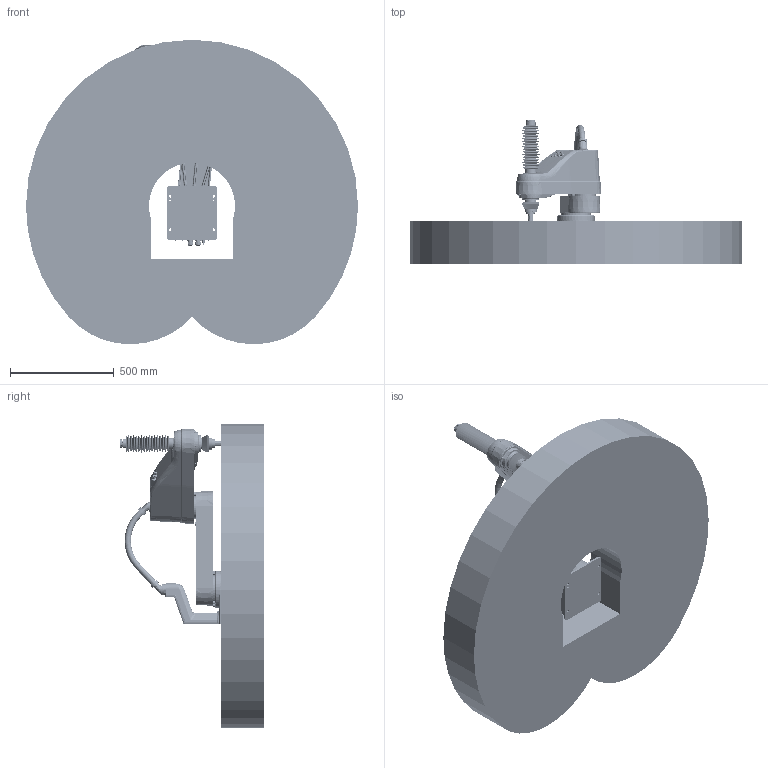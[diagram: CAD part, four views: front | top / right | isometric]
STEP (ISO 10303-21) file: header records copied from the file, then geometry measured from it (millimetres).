
FILE_DESCRIPTION (( 'STEP AP203' ), '1' );
FILE_NAME ('Python800-C10C 1.240BA.00.000.I.STEP', '2025-06-16T09:25:16', ( '' ), ( '' ), 'SwSTEP 2.0', 'SolidWorks 2021', '' );
FILE_SCHEMA (( 'CONFIG_CONTROL_DESIGN' ));
Length unit declared in the file: millimetre
Products named in the file (20): 葩璃 苤旋窒煦^Python800-C10C  1.240BA.00.000.I; 复件 1.240BA.23.004.0^复件 丝杠花键_Python800-C10C  1.240BA.00.000.I; 葩璃 盄旰諉諳啣^Python800-C10C  1.240BA.00.000.I; BNS 2525A+436L Shaft; Python800-C10C  1.240BA.00.000.I; 葩璃 菁釱窒煦^Python800-C10C  1.240BA.00.000.I; 复件 1.240BA.23.227.0^复件 丝杠花键_Python800-C10C  1.240BA.00.000.I; 葩璃 佪話豪瑩^Python800-C10C  1.240BA.00.000.I; 葩璃 Python800-C10馱釬諾潔^Python800-C10C  1.240BA.00.000.I; 复件 11111111111^复件 丝杠花键_Python800-C10C  1.240BA.00.000.I; 475858_61905-2RZ; 复件 22222222^复件 丝杠花键_Python800-C10C  1.240BA.00.000.I; 复件 1.240BA.23.226.0^复件 丝杠花键_Python800-C10C  1.240BA.00.000.I; 葩璃 Python800-C10盄旰2^Python800-C10C  1.240BA.00.000.I; 复件 1.240BA.23.217.0^复件 丝杠花键_Python800-C10C  1.240BA.00.000.I; 葩璃 湮旋窒煦^Python800-C10C  1.240BA.00.000.I; 复件 1.240BA.23.220.B^复件 丝杠花键_Python800-C10C  1.240BA.00.000.I; 复件 内六角圆柱头螺钉 M4×16 12.9级碳钢镀镍 GBT70.1^复件 丝杠花键_Python800-C10C  1.240BA.00.000.I_M4*6; 414758696; 复件 轴用弹性挡圈A型 φ25-SUS304 GBT894^复件 丝杠花键_Python800-C10C  1.240BA.00.000.I_25
Assembly tree (27 placements, depth 4):
  Python800-C10C  1.240BA.00.000.I
    葩璃 菁釱窒煦^Python800-C10C  1.240BA.00.000.I
    葩璃 湮旋窒煦^Python800-C10C  1.240BA.00.000.I
    葩璃 苤旋窒煦^Python800-C10C  1.240BA.00.000.I
    葩璃 佪話豪瑩^Python800-C10C  1.240BA.00.000.I
      414758696
        BNS 2525A+436L Shaft
      475858_61905-2RZ  x2
      复件 1.240BA.23.226.0^复件 丝杠花键_Python800-C10C  1.240BA.00.000.I
      复件 1.240BA.23.217.0^复件 丝杠花键_Python800-C10C  1.240BA.00.000.I  x2
      复件 1.240BA.23.220.B^复件 丝杠花键_Python800-C10C  1.240BA.00.000.I
      复件 1.240BA.23.004.0^复件 丝杠花键_Python800-C10C  1.240BA.00.000.I  x2
      复件 轴用弹性挡圈A型 φ25-SUS304 GBT894^复件 丝杠花键_Python800-C10C  1.240BA.00.000.I_25
      复件 内六角圆柱头螺钉 M4×16 12.9级碳钢镀镍 GBT70.1^复件 丝杠花键_Python800-C10C  1.240BA.00.000.I_M4*6  x6
      复件 1.240BA.23.227.0^复件 丝杠花键_Python800-C10C  1.240BA.00.000.I
      复件 11111111111^复件 丝杠花键_Python800-C10C  1.240BA.00.000.I
      复件 22222222^复件 丝杠花键_Python800-C10C  1.240BA.00.000.I
    葩璃 盄旰諉諳啣^Python800-C10C  1.240BA.00.000.I
    葩璃 Python800-C10盄旰2^Python800-C10C  1.240BA.00.000.I
    葩璃 Python800-C10馱釬諾潔^Python800-C10C  1.240BA.00.000.I
Bounding box: 1600 x 694.4 x 1467.65 mm (x, y, z)
Volume: 370143489.3 mm3; surface area: 8148631.1 mm2
Topology: 251 solids, 251 shells, 10069 faces, 23876 edges, 14626 vertices
Faces by surface type: cylinder 3447, plane 2977, cone 1302, bspline 1148, torus 928, sphere 267
Entity records: 362810 total; most frequent: CARTESIAN_POINT 144154, DIRECTION 45566, ORIENTED_EDGE 44730, EDGE_CURVE 22365, AXIS2_PLACEMENT_3D 18502, VERTEX_POINT 13850, EDGE_LOOP 11129, CIRCLE 9946
